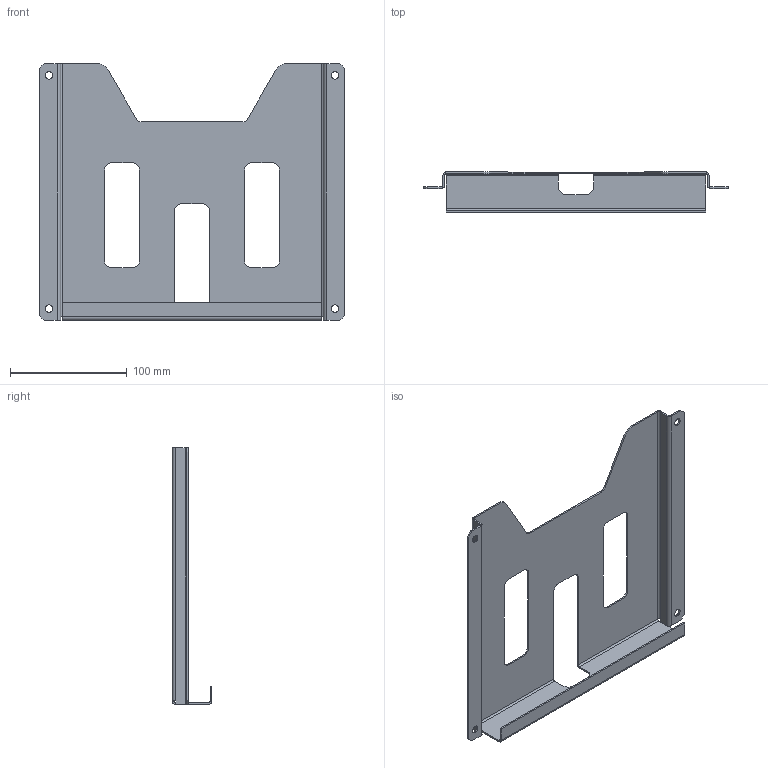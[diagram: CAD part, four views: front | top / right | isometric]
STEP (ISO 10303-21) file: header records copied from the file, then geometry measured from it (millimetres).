
FILE_DESCRIPTION (( 'STEP AP203' ), '1' );
FILE_NAME ('DP 40 M Êàðìàí äëÿ äîêóìåíòàöèè v2.STEP', '2021-01-19T13:11:05', ( '' ), ( '' ), 'SwSTEP 2.0', 'SolidWorks 2018', '' );
FILE_SCHEMA (( 'CONFIG_CONTROL_DESIGN' ));
Length unit declared in the file: millimetre
Products named in the file (1): DP 40 M Êàðìàí äëÿ äîêóìåíòàöèè v2
Bounding box: 261.2 x 34 x 220 mm (x, y, z)
Volume: 79766.5 mm3; surface area: 116714.5 mm2
Topology: 1 solids, 1 shells, 102 faces, 258 edges, 156 vertices
Faces by surface type: plane 64, cylinder 38
Entity records: 3119 total; most frequent: DIRECTION 540, CARTESIAN_POINT 517, ORIENTED_EDGE 516, EDGE_CURVE 258, LINE 182, VECTOR 182, AXIS2_PLACEMENT_3D 179, VERTEX_POINT 156
